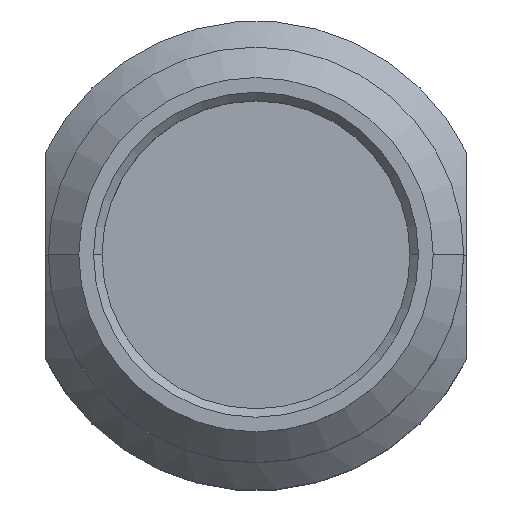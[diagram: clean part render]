
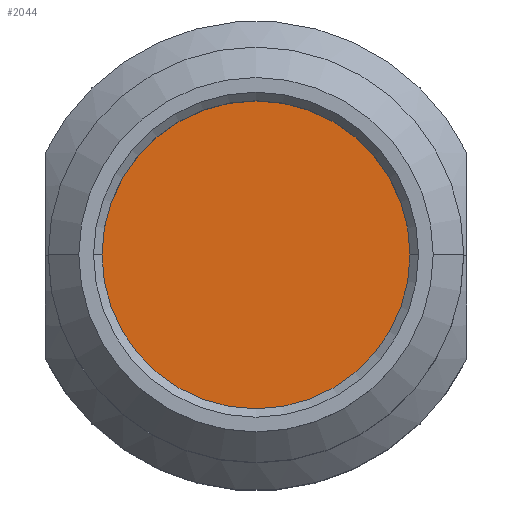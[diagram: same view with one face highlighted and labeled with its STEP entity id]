
A CAD part, top view. The second image highlights one B-rep face of the part: STEP entity #2044.
In plain terms, the highlighted planar face has unit normal (0, 0, 1).
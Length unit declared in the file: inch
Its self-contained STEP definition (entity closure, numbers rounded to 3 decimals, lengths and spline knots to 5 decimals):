
#182 = CIRCLE ( 'NONE', #234, 0.09125 ) ;
#234 = AXIS2_PLACEMENT_3D ( 'NONE', #719, #1849, #543 ) ;
#288 = PLANE ( 'NONE',  #1454 ) ;
#367 = VERTEX_POINT ( 'NONE', #2025 ) ;
#460 = EDGE_CURVE ( 'NONE', #367, #2046, #817, .T. ) ;
#543 = DIRECTION ( 'NONE',  ( 1., 0., 0. ) ) ;
#708 = DIRECTION ( 'NONE',  ( 1., 0., 0. ) ) ;
#719 = CARTESIAN_POINT ( 'NONE',  ( 0., 0., -0.076 ) ) ;
#797 = EDGE_LOOP ( 'NONE', ( #1075, #857 ) ) ;
#817 = CIRCLE ( 'NONE', #1391, 0.09125 ) ;
#857 = ORIENTED_EDGE ( 'NONE', *, *, #1063, .T. ) ;
#900 = CARTESIAN_POINT ( 'NONE',  ( 0., 0., -0.076 ) ) ;
#970 = DIRECTION ( 'NONE',  ( 0., 0., -1. ) ) ;
#1063 = EDGE_CURVE ( 'NONE', #2046, #367, #182, .T. ) ;
#1075 = ORIENTED_EDGE ( 'NONE', *, *, #460, .T. ) ;
#1373 = CARTESIAN_POINT ( 'NONE',  ( -0.09125, 0., -0.076 ) ) ;
#1391 = AXIS2_PLACEMENT_3D ( 'NONE', #900, #2014, #708 ) ;
#1454 = AXIS2_PLACEMENT_3D ( 'NONE', #2191, #970, #2085 ) ;
#1849 = DIRECTION ( 'NONE',  ( 0., 0., 1. ) ) ;
#2014 = DIRECTION ( 'NONE',  ( 0., 0., 1. ) ) ;
#2025 = CARTESIAN_POINT ( 'NONE',  ( 0.09125, 0., -0.076 ) ) ;
#2044 = ADVANCED_FACE ( 'NONE', ( #2153 ), #288, .F. ) ;
#2046 = VERTEX_POINT ( 'NONE', #1373 ) ;
#2085 = DIRECTION ( 'NONE',  ( -1., 0., 0. ) ) ;
#2153 = FACE_OUTER_BOUND ( 'NONE', #797, .T. ) ;
#2191 = CARTESIAN_POINT ( 'NONE',  ( 0., 0.07675, -0.076 ) ) ;
